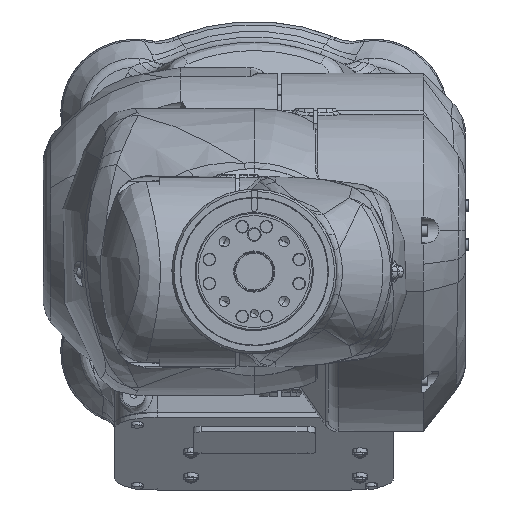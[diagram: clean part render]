
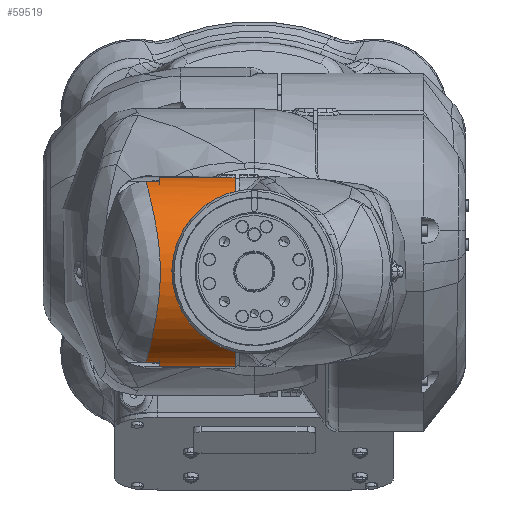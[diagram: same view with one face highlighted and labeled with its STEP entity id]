
A CAD part, top view. The second image highlights one B-rep face of the part: STEP entity #59519.
In plain terms, the highlighted cylindrical face has radius 45 mm (diameter 90 mm), a partial arc.
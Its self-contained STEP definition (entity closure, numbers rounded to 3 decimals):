
#59405=CARTESIAN_POINT('Axis2P3D Location',(-41.,0.,0.)) ;
#59410=CARTESIAN_POINT('Line Origine',(-41.,44.829,3.922)) ;
#59414=CARTESIAN_POINT('Vertex',(-17.418,44.829,3.922)) ;
#59416=CARTESIAN_POINT('Vertex',(-45.,44.829,3.922)) ;
#59419=CARTESIAN_POINT('Axis2P3D Location',(-45.,0.,0.)) ;
#59423=CARTESIAN_POINT('Vertex',(-45.,42.91,13.553)) ;
#59426=CARTESIAN_POINT('Line Origine',(-41.,42.91,13.553)) ;
#59430=CARTESIAN_POINT('Vertex',(-51.21,42.91,13.553)) ;
#59434=CARTESIAN_POINT('Control Point',(-51.21,42.91,13.553)) ;
#59435=CARTESIAN_POINT('Control Point',(-50.83,41.395,18.351)) ;
#59436=CARTESIAN_POINT('Control Point',(-50.283,39.199,22.968)) ;
#59437=CARTESIAN_POINT('Control Point',(-49.587,36.339,27.292)) ;
#59438=CARTESIAN_POINT('Control Point',(-48.343,31.067,33.228)) ;
#59439=CARTESIAN_POINT('Control Point',(-46.993,24.338,38.004)) ;
#59440=CARTESIAN_POINT('Control Point',(-46.537,21.907,39.465)) ;
#59441=CARTESIAN_POINT('Control Point',(-45.866,17.938,41.436)) ;
#59442=CARTESIAN_POINT('Control Point',(-45.298,13.593,42.942)) ;
#59443=CARTESIAN_POINT('Control Point',(-45.118,12.051,43.402)) ;
#59444=CARTESIAN_POINT('Control Point',(-44.765,8.522,44.281)) ;
#59445=CARTESIAN_POINT('Control Point',(-44.539,4.828,44.812)) ;
#59446=CARTESIAN_POINT('Control Point',(-44.462,2.754,44.988)) ;
#59447=CARTESIAN_POINT('Control Point',(-44.413,-1.646,45.103)) ;
#59448=CARTESIAN_POINT('Control Point',(-44.592,-6.004,44.686)) ;
#59449=CARTESIAN_POINT('Control Point',(-44.747,-8.248,44.323)) ;
#59450=CARTESIAN_POINT('Control Point',(-45.146,-12.559,43.347)) ;
#59451=CARTESIAN_POINT('Control Point',(-45.686,-16.575,41.915)) ;
#59452=CARTESIAN_POINT('Control Point',(-45.976,-18.481,41.106)) ;
#59453=CARTESIAN_POINT('Control Point',(-46.686,-22.749,39.005)) ;
#59454=CARTESIAN_POINT('Control Point',(-47.434,-26.569,36.459)) ;
#59455=CARTESIAN_POINT('Control Point',(-47.859,-28.611,34.874)) ;
#59456=CARTESIAN_POINT('Control Point',(-48.978,-33.761,30.261)) ;
#59457=CARTESIAN_POINT('Control Point',(-49.952,-37.835,24.903)) ;
#59458=CARTESIAN_POINT('Control Point',(-50.477,-39.976,21.281)) ;
#59459=CARTESIAN_POINT('Control Point',(-50.899,-41.671,17.478)) ;
#59460=CARTESIAN_POINT('Control Point',(-51.21,-42.911,13.553)) ;
#59461=CARTESIAN_POINT('Vertex',(-51.21,-42.911,13.553)) ;
#59464=CARTESIAN_POINT('Line Origine',(-41.,-42.911,13.553)) ;
#59468=CARTESIAN_POINT('Vertex',(-45.,-42.911,13.553)) ;
#59471=CARTESIAN_POINT('Axis2P3D Location',(-45.,0.,0.)) ;
#59475=CARTESIAN_POINT('Vertex',(-45.,-44.829,3.922)) ;
#59478=CARTESIAN_POINT('Line Origine',(-41.,-44.829,3.922)) ;
#59482=CARTESIAN_POINT('Vertex',(-9.,-44.829,3.922)) ;
#59485=CARTESIAN_POINT('Axis2P3D Location',(-9.,0.,0.)) ;
#59489=CARTESIAN_POINT('Vertex',(-9.,44.497,6.71)) ;
#59493=CARTESIAN_POINT('Control Point',(-16.527,44.77,4.537)) ;
#59494=CARTESIAN_POINT('Control Point',(-14.804,44.675,5.479)) ;
#59495=CARTESIAN_POINT('Control Point',(-12.941,44.577,6.181)) ;
#59496=CARTESIAN_POINT('Control Point',(-10.98,44.514,6.596)) ;
#59497=CARTESIAN_POINT('Control Point',(-9.,44.497,6.71)) ;
#59498=CARTESIAN_POINT('Vertex',(-16.527,44.77,4.537)) ;
#59502=CARTESIAN_POINT('Control Point',(-17.418,44.829,3.922)) ;
#59503=CARTESIAN_POINT('Control Point',(-17.144,44.808,4.156)) ;
#59504=CARTESIAN_POINT('Control Point',(-16.845,44.788,4.363)) ;
#59505=CARTESIAN_POINT('Control Point',(-16.527,44.77,4.537)) ;
#59406=DIRECTION('Axis2P3D Direction',(1.,0.,0.)) ;
#59407=DIRECTION('Axis2P3D XDirection',(0.,0.996,0.087)) ;
#59411=DIRECTION('Vector Direction',(1.,0.,0.)) ;
#59420=DIRECTION('Axis2P3D Direction',(1.,0.,0.)) ;
#59427=DIRECTION('Vector Direction',(1.,0.,0.)) ;
#59465=DIRECTION('Vector Direction',(1.,0.,0.)) ;
#59472=DIRECTION('Axis2P3D Direction',(1.,0.,0.)) ;
#59479=DIRECTION('Vector Direction',(1.,0.,0.)) ;
#59486=DIRECTION('Axis2P3D Direction',(1.,0.,0.)) ;
#59408=AXIS2_PLACEMENT_3D('Cylinder Axis2P3D',#59405,#59406,#59407) ;
#59421=AXIS2_PLACEMENT_3D('Circle Axis2P3D',#59419,#59420,$) ;
#59473=AXIS2_PLACEMENT_3D('Circle Axis2P3D',#59471,#59472,$) ;
#59487=AXIS2_PLACEMENT_3D('Circle Axis2P3D',#59485,#59486,$) ;
#59508=ORIENTED_EDGE('',*,*,#59418,.T.) ;
#59509=ORIENTED_EDGE('',*,*,#59425,.T.) ;
#59510=ORIENTED_EDGE('',*,*,#59432,.F.) ;
#59511=ORIENTED_EDGE('',*,*,#59463,.F.) ;
#59512=ORIENTED_EDGE('',*,*,#59470,.T.) ;
#59513=ORIENTED_EDGE('',*,*,#59477,.T.) ;
#59514=ORIENTED_EDGE('',*,*,#59484,.F.) ;
#59515=ORIENTED_EDGE('',*,*,#59491,.F.) ;
#59516=ORIENTED_EDGE('',*,*,#59500,.T.) ;
#59517=ORIENTED_EDGE('',*,*,#59506,.T.) ;
#59412=VECTOR('Line Direction',#59411,1.) ;
#59428=VECTOR('Line Direction',#59427,1.) ;
#59466=VECTOR('Line Direction',#59465,1.) ;
#59480=VECTOR('Line Direction',#59479,1.) ;
#59519=ADVANCED_FACE('J4',(#59518),#59409,.T.) ;
#59433=B_SPLINE_CURVE_WITH_KNOTS('',5,(#59434,#59435,#59436,#59437,#59438,#59439,#59440,#59441,#59442,#59443,#59444,#59445,#59446,#59447,#59448,#59449,#59450,#59451,#59452,#59453,#59454,#59455,#59456,#59457,#59458,#59459,#59460),.UNSPECIFIED.,.F.,.U.,(6,3,3,3,3,3,3,3,6),(49.345,83.252,100.457,109.518,120.656,132.975,145.04,161.203,188.939),.UNSPECIFIED.) ;
#59492=B_SPLINE_CURVE_WITH_KNOTS('',4,(#59493,#59494,#59495,#59496,#59497),.UNSPECIFIED.,.F.,.U.,(5,5),(36.467,47.081),.UNSPECIFIED.) ;
#59501=B_SPLINE_CURVE_WITH_KNOTS('',3,(#59502,#59503,#59504,#59505),.UNSPECIFIED.,.F.,.U.,(4,4),(25.157,26.461),.UNSPECIFIED.) ;
#59422=CIRCLE('generated circle',#59421,45.) ;
#59474=CIRCLE('generated circle',#59473,45.) ;
#59488=CIRCLE('generated circle',#59487,45.) ;
#59409=CYLINDRICAL_SURFACE('generated cylinder',#59408,45.) ;
#59418=EDGE_CURVE('',#59415,#59417,#59413,.F.) ;
#59425=EDGE_CURVE('',#59417,#59424,#59422,.T.) ;
#59432=EDGE_CURVE('',#59431,#59424,#59429,.T.) ;
#59463=EDGE_CURVE('',#59462,#59431,#59433,.F.) ;
#59470=EDGE_CURVE('',#59462,#59469,#59467,.T.) ;
#59477=EDGE_CURVE('',#59469,#59476,#59474,.T.) ;
#59484=EDGE_CURVE('',#59483,#59476,#59481,.F.) ;
#59491=EDGE_CURVE('',#59490,#59483,#59488,.T.) ;
#59500=EDGE_CURVE('',#59490,#59499,#59492,.F.) ;
#59506=EDGE_CURVE('',#59499,#59415,#59501,.F.) ;
#59507=EDGE_LOOP('',(#59508,#59509,#59510,#59511,#59512,#59513,#59514,#59515,#59516,#59517)) ;
#59518=FACE_OUTER_BOUND('',#59507,.T.) ;
#59413=LINE('Line',#59410,#59412) ;
#59429=LINE('Line',#59426,#59428) ;
#59467=LINE('Line',#59464,#59466) ;
#59481=LINE('Line',#59478,#59480) ;
#59415=VERTEX_POINT('',#59414) ;
#59417=VERTEX_POINT('',#59416) ;
#59424=VERTEX_POINT('',#59423) ;
#59431=VERTEX_POINT('',#59430) ;
#59462=VERTEX_POINT('',#59461) ;
#59469=VERTEX_POINT('',#59468) ;
#59476=VERTEX_POINT('',#59475) ;
#59483=VERTEX_POINT('',#59482) ;
#59490=VERTEX_POINT('',#59489) ;
#59499=VERTEX_POINT('',#59498) ;
